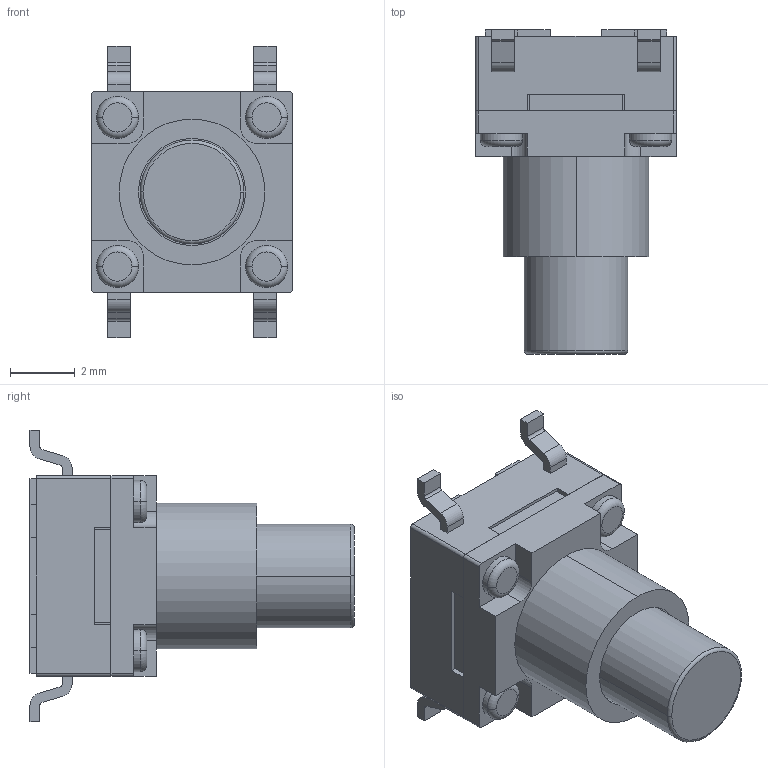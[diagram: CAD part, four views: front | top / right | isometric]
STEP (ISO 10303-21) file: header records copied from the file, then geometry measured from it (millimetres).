
FILE_DESCRIPTION((''),'2;1');
FILE_NAME('JQA6060YF-B1001-01EGH-1-104_ASM','2026-05-13T14:44:35',('Admin'),(''),'CREO PARAMETRIC BY PTC INC, 2019224','CREO PARAMETRIC BY PTC INC, 2019224','');
FILE_SCHEMA(('AUTOMOTIVE_DESIGN { 1 0 10303 214 1 1 1 1 }'));
Length unit declared in the file: millimetre
Products named in the file (3): JQA6060YF-B1001-01EGH-1-104_01; JQA6060YF-B1001-01EGH-1-104_02; JQA6060YF-B1001-01EGH-1-104_ASM
Assembly tree (2 placements, depth 2):
  JQA6060YF-B1001-01EGH-1-104_ASM
    JQA6060YF-B1001-01EGH-1-104_01
    JQA6060YF-B1001-01EGH-1-104_02
Bounding box: 6.2 x 10 x 9 mm (x, y, z)
Volume: 213.1 mm3; surface area: 453.2 mm2
Topology: 2 solids, 2 shells, 200 faces, 532 edges, 366 vertices
Faces by surface type: plane 132, cylinder 58, torus 10
Entity records: 8566 total; most frequent: CARTESIAN_POINT 1096, DIRECTION 1092, ORIENTED_EDGE 1044, PRESENTATION_STYLE_ASSIGNMENT 589, STYLED_ITEM 537, CURVE_STYLE 535, EDGE_CURVE 522, VECTOR 394
